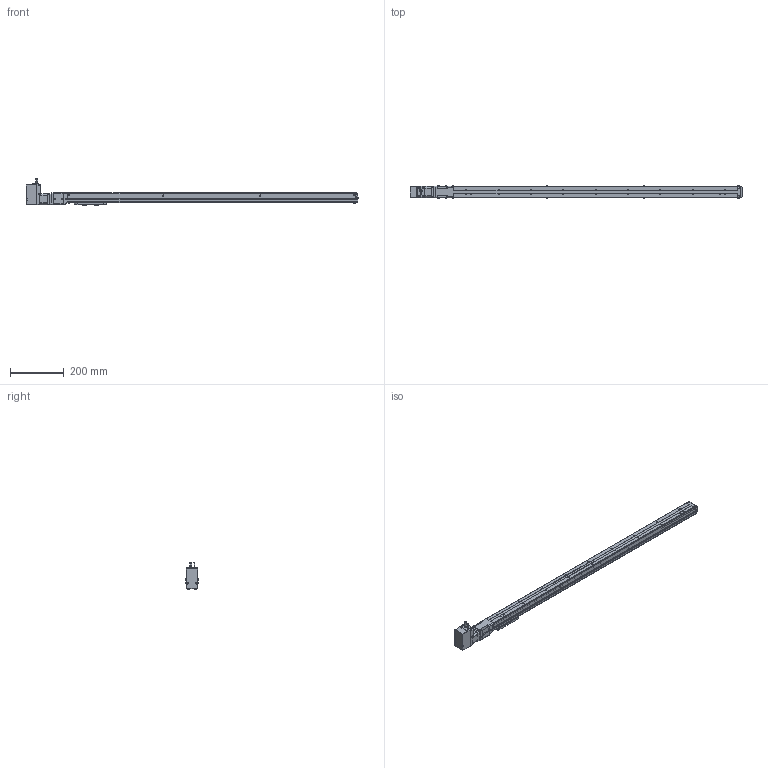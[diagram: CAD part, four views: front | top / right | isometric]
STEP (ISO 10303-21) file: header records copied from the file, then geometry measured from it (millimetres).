
FILE_DESCRIPTION(('FreeCAD Model'),'2;1');
FILE_NAME('Open CASCADE Shape Model','2023-08-01T18:41:57',('Author'),( ''),'Open CASCADE STEP processor 7.5','FreeCAD','Unknown');
FILE_SCHEMA(('AUTOMOTIVE_DESIGN { 1 0 10303 214 1 1 1 1 }'));
Length unit declared in the file: millimetre
Products named in the file (20): RCB0411; Shapes; Shapes001; Shapes002; Shapes003; Shapes004; Shapes005; Shapes006; Shapes007; Shapes008; Shapes009; Shapes010; Shapes011; Shapes012; Shapes013; KSF4-10-0900-0-AR(0); KSF4---(Cover); KSF4-AR---(Motor bracket); KSF4-10-0900---(slider); KSF4-10-0900-0-AR-(09000ARNo0)---(body)
Assembly tree (19 placements, depth 3):
  RCB0411
    Shapes
    Shapes001
    Shapes002
    Shapes003
    Shapes004
    Shapes005
    Shapes006
    Shapes007
    Shapes008
    Shapes009
    Shapes010
    Shapes011
    Shapes012
    Shapes013
    KSF4-10-0900-0-AR(0)
      KSF4---(Cover)
      KSF4-AR---(Motor bracket)
      KSF4-10-0900---(slider)
      KSF4-10-0900-0-AR-(09000ARNo0)---(body)
Bounding box: 1232 x 45.4 x 97.64 mm (x, y, z)
Volume: 1931670 mm3; surface area: 355717.1 mm2
Topology: 18 solids, 18 shells, 1317 faces, 3378 edges, 2204 vertices
Faces by surface type: plane 727, cylinder 440, cone 68, torus 53, bspline 19, revolution 6, sphere 4
Full cylindrical faces by diameter (mm): 2.113 x8, 2.459 x3, 3 x6, 3.242 x4, 3.4 x22, 4 x3, 4.5 x2, 5.5 x8, 6 x1, 6.5 x24, 8 x1, 12 x1, 22 x1, 28 x1, 30 x2
Entity records: 95570 total; most frequent: CARTESIAN_POINT 27314, DIRECTION 12833, LINE 7591, VECTOR 7591, ORIENTED_EDGE 6720, PCURVE 6720, DEFINITIONAL_REPRESENTATION 6720, EDGE_CURVE 3360
